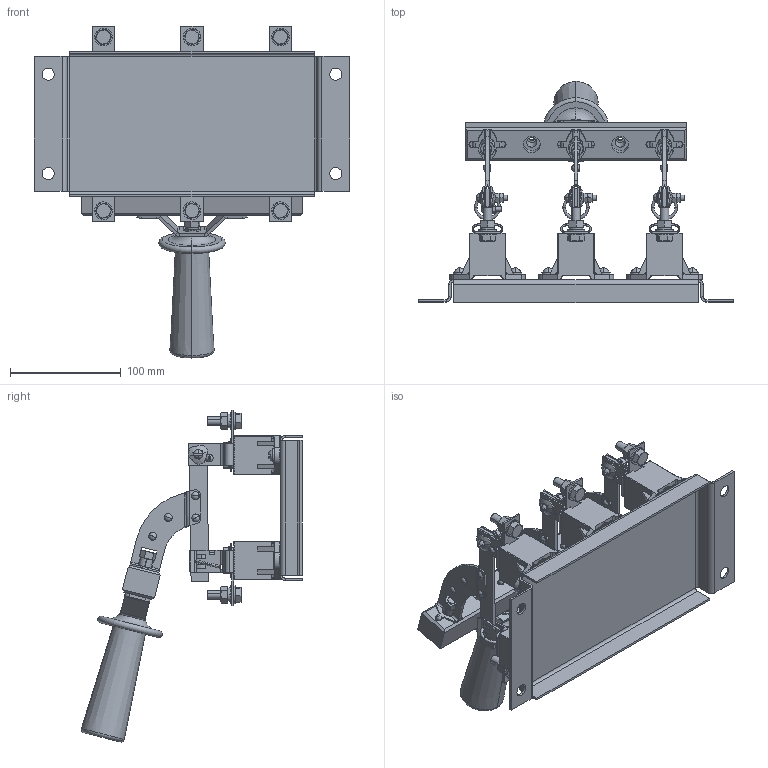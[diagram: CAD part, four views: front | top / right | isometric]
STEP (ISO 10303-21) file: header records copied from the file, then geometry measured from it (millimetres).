
FILE_DESCRIPTION (( 'STEP AP214' ), '1' );
FILE_NAME ('Ðàçúåäèíèòåëü ÐÅ19-31-31110-100À-ÓÕË3-ÊÝÀÇ.STEP', '2023-08-17T08:13:27', ( '' ), ( '' ), 'SwSTEP 2.0', 'SolidWorks 2018', '' );
FILE_SCHEMA (( 'AUTOMOTIVE_DESIGN' ));
Length unit declared in the file: millimetre
Products named in the file (1): Ðàçúåäèíèòåëü ÐÅ19-31-31110-100À-ÓÕË3-ÊÝÀÇ
Bounding box: 285 x 200.23 x 300.14 mm (x, y, z)
Surface area: 304595.8 mm2 (no closed solid volume)
Topology: 0 solids, 991 shells, 3809 faces, 14994 edges, 12059 vertices
Faces by surface type: plane 2854, cylinder 646, sphere 84, cone 81, torus 74, bspline 70
Entity records: 200045 total; most frequent: CARTESIAN_POINT 40816, DIRECTION 22989, ORIENTED_EDGE 19904, EDGE_CURVE 14953, VERTEX_POINT 12035, LINE 10817, VECTOR 10817, AXIS2_PLACEMENT_3D 6086
